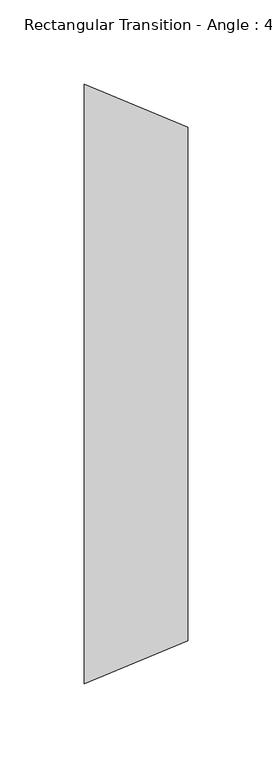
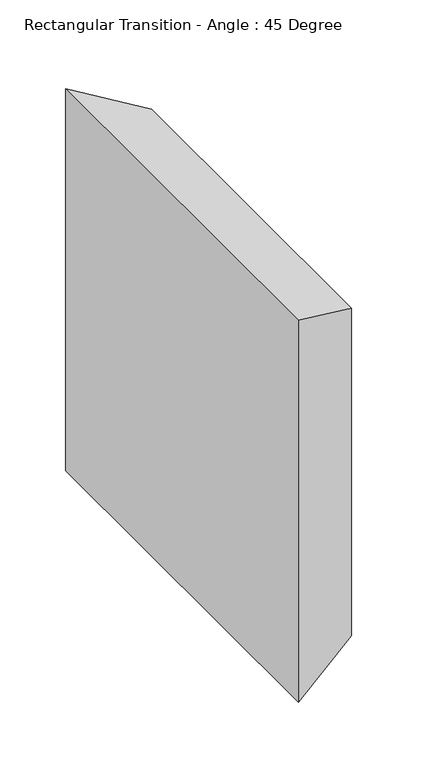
"""IFC4 building model written with IfcOpenShell, lengths in millimetres: duct fitting geometry, Rectangular Transition - Angle : 45 Degree."""

from ifc_helpers import new_model, si_unit, origin, place, context, project, spatial, faceted_brep, source, transform, mapped, element, save


def rectangular_transition_angle_45_degree_276d8c96(model_context):
    return source(origin(), model_context, "Body", "Brep", [
        faceted_brep([(61.3210245, -152.4, 152.4), (61.3210245, -152.4, -152.4), (61.3210245, 152.4, -152.4), (61.3210245, 152.4, 152.4), (0.0, -177.8, 177.8), (0.0, 177.8, 177.8), (0.0, 177.8, -177.8), (0.0, -177.8, -177.8)], [[[0, 1, 2, 3]], [[4, 5, 6, 7]], [[4, 7, 1, 0]], [[7, 6, 2, 1]], [[6, 5, 3, 2]], [[5, 4, 0, 3]]]),
    ])


if __name__ == "__main__":
    model = new_model("IFC4")
    model_context = context("Model", 3, world=origin())
    ifc_project = project(units=[si_unit("LENGTHUNIT", "METRE", prefix="MILLI")], contexts=[model_context])
    site = spatial("IfcSite", under=ifc_project)
    building = spatial("IfcBuilding", under=site)
    placement = place(None, origin())
    rectangular_transition_angle_45_degree_shape = rectangular_transition_angle_45_degree_276d8c96(model_context)
    element("IfcDuctFitting", 1, ObjectType="Rectangular Transition - Angle : 45 Degree", at=placement, inside=building, context=model_context, shape_type="MappedRepresentation", body=[
        mapped(rectangular_transition_angle_45_degree_shape, transform((0.0, 0.0, 0.0), x_axis=(1.0, 0.0, 0.0), y_axis=(0.0, 1.0, 0.0), z_axis=(0.0, 0.0, 1.0))),
    ])
    save(model, "model.ifc")
